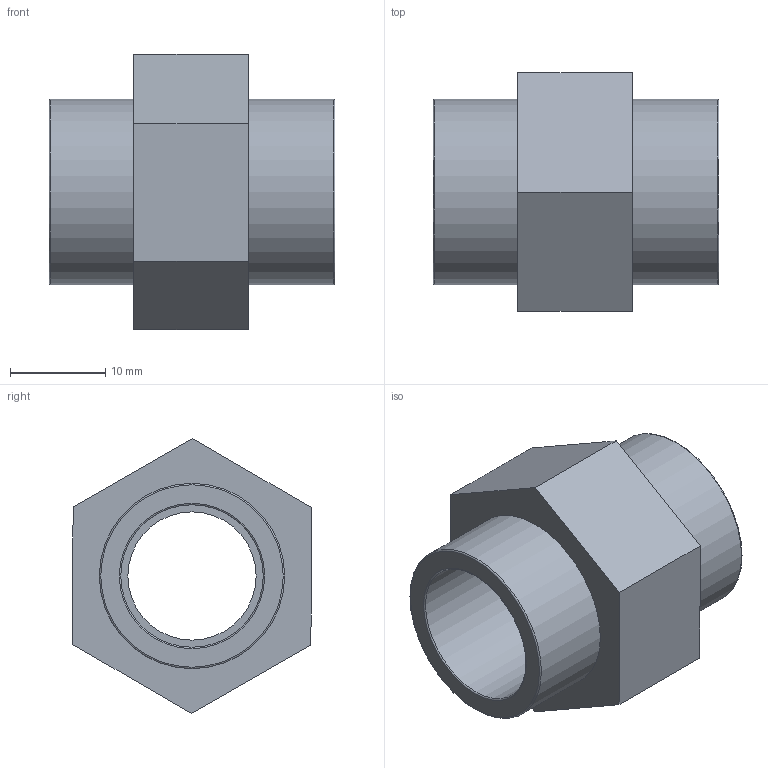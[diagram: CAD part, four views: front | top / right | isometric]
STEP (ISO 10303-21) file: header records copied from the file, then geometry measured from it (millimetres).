
FILE_DESCRIPTION(/* description */ ('PLASSON THREADED SOCKET PVC 3/8"'),/* implementation_level */ '2;1');
FILE_NAME(/* name */ 'C:\Dropbox\KIMPROJECTS-Inventor\99-16-3568-Processing\PVC Catalog 2017\050101\050101003.ipt.stp',/* time_stamp */ '2017-12-07T15:51:36+02:00',/* author */ ('KIM'),/* organization */ (''),/* preprocessor_version */ 'ST-DEVELOPER v15.6',/* originating_system */ 'Autodesk Inventor 2015',/* authorisation */ '');
FILE_SCHEMA (('AUTOMOTIVE_DESIGN { 1 0 10303 214 3 1 1 }'));
Length unit declared in the file: millimetre
Products named in the file (1): 050101003
Bounding box: 30 x 25.04 x 28.87 mm (x, y, z)
Volume: 6701.3 mm3; surface area: 4312.8 mm2
Topology: 1 solids, 1 shells, 21 faces, 41 edges, 26 vertices
Faces by surface type: plane 12, cylinder 5, torus 4
Full cylindrical faces by diameter (mm): 13.455 x1, 14.95 x2, 19.435 x2
Entity records: 520 total; most frequent: DIRECTION 90, CARTESIAN_POINT 80, ORIENTED_EDGE 64, EDGE_LOOP 36, AXIS2_PLACEMENT_3D 36, EDGE_CURVE 32, VERTEX_POINT 26, FACE_OUTER_BOUND 21
